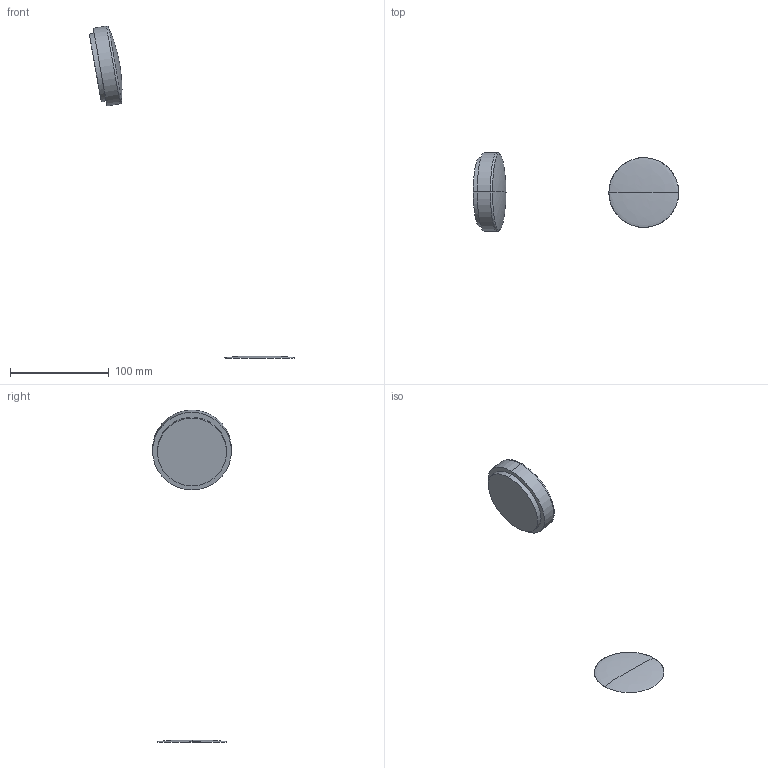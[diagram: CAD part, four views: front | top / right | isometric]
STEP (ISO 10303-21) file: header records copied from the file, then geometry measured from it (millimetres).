
FILE_DESCRIPTION(('STEP AP203'),'2;1');
FILE_NAME('COLSCA-K_BABY.stp','2015-07-31T12:35:12',(''),(''),'2014.1.117','THINKDESIGN','');
FILE_SCHEMA(('CONFIG_CONTROL_DESIGN'));
Length unit declared in the file: millimetre
Bounding box: 208.32 x 80 x 336.82 mm (x, y, z)
Volume: 112260.8 mm3; surface area: 22809.3 mm2
Topology: 2 solids, 2 shells, 13 faces, 26 edges, 14 vertices
Faces by surface type: bspline 6, cylinder 4, plane 3
Entity records: 563 total; most frequent: CARTESIAN_POINT 233, DIRECTION 50, ORIENTED_EDGE 44, AXIS2_PLACEMENT_3D 23, EDGE_CURVE 22, CIRCLE 16, VERTEX_POINT 14, EDGE_LOOP 14
